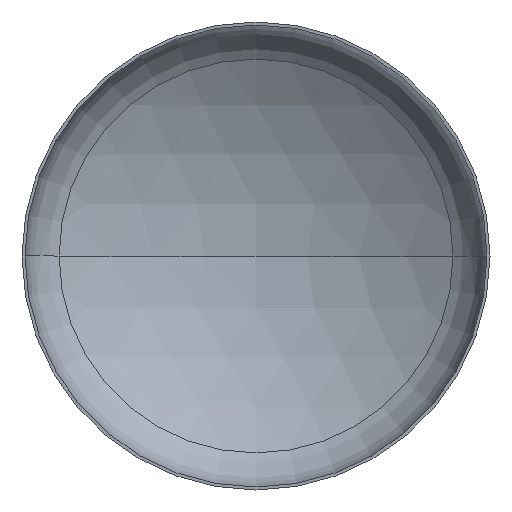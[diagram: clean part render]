
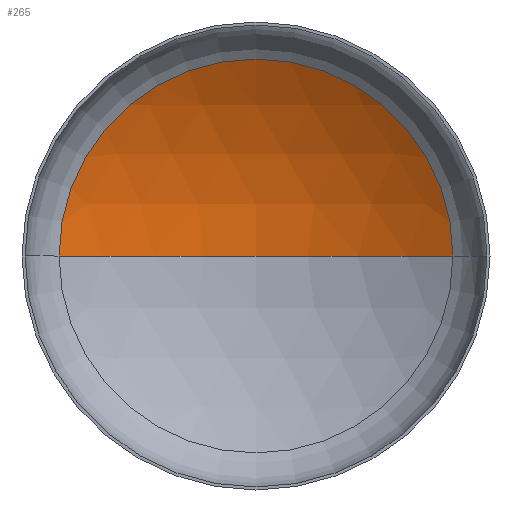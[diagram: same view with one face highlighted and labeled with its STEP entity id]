
A CAD part, front view. The second image highlights one B-rep face of the part: STEP entity #265.
In plain terms, the highlighted spherical face has radius 2240 mm.
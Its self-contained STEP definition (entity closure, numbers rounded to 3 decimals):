
#17 = EDGE_LOOP ( 'NONE', ( #84, #116, #72 ) ) ;
#27 = EDGE_CURVE ( 'NONE', #139, #33, #223, .T. ) ;
#29 = EDGE_CURVE ( 'NONE', #82, #139, #409, .T. ) ;
#32 = EDGE_CURVE ( 'NONE', #82, #33, #349, .T. ) ;
#33 = VERTEX_POINT ( 'NONE', #327 ) ;
#72 = ORIENTED_EDGE ( 'NONE', *, *, #27, .T. ) ;
#82 = VERTEX_POINT ( 'NONE', #185 ) ;
#84 = ORIENTED_EDGE ( 'NONE', *, *, #32, .F. ) ;
#116 = ORIENTED_EDGE ( 'NONE', *, *, #29, .T. ) ;
#139 = VERTEX_POINT ( 'NONE', #171 ) ;
#144 = DIRECTION ( 'NONE',  ( 0., 0., -1. ) ) ;
#171 = CARTESIAN_POINT ( 'NONE',  ( 1178.166, 420.717, 0. ) ) ;
#173 = CARTESIAN_POINT ( 'NONE',  ( 0., 420.717, 0. ) ) ;
#175 = DIRECTION ( 'NONE',  ( 0., -1., 0. ) ) ;
#185 = CARTESIAN_POINT ( 'NONE',  ( 0., 755.586, 0. ) ) ;
#223 = CIRCLE ( 'NONE', #357, 1178.166 ) ;
#243 = FACE_OUTER_BOUND ( 'NONE', #17, .T. ) ;
#265 = ADVANCED_FACE ( 'NONE', ( #243 ), #371, .F. ) ;
#295 = DIRECTION ( 'NONE',  ( 1., 0., 0. ) ) ;
#298 = DIRECTION ( 'NONE',  ( 0., 0., 1. ) ) ;
#327 = CARTESIAN_POINT ( 'NONE',  ( -1178.166, 420.717, 0. ) ) ;
#329 = DIRECTION ( 'NONE',  ( 1., 0., 0. ) ) ;
#334 = DIRECTION ( 'NONE',  ( -1., 0., 0. ) ) ;
#335 = DIRECTION ( 'NONE',  ( 0., 0., -1. ) ) ;
#343 = CARTESIAN_POINT ( 'NONE',  ( 0., -1484.414, 0. ) ) ;
#349 = CIRCLE ( 'NONE', #387, 2240. ) ;
#357 = AXIS2_PLACEMENT_3D ( 'NONE', #173, #175, #329 ) ;
#359 = DIRECTION ( 'NONE',  ( -1., 0., 0. ) ) ;
#371 = SPHERICAL_SURFACE ( 'NONE', #382, 2240. ) ;
#374 = AXIS2_PLACEMENT_3D ( 'NONE', #343, #335, #334 ) ;
#376 = CARTESIAN_POINT ( 'NONE',  ( 0., -1484.414, 0. ) ) ;
#379 = CARTESIAN_POINT ( 'NONE',  ( 0., -1484.414, 0. ) ) ;
#382 = AXIS2_PLACEMENT_3D ( 'NONE', #379, #144, #359 ) ;
#387 = AXIS2_PLACEMENT_3D ( 'NONE', #376, #298, #295 ) ;
#409 = CIRCLE ( 'NONE', #374, 2240. ) ;
